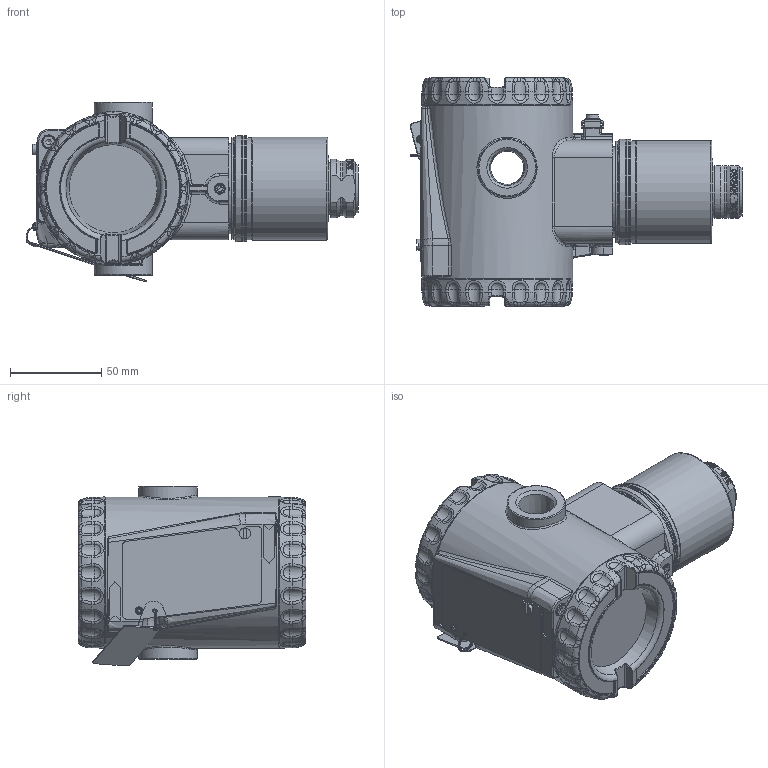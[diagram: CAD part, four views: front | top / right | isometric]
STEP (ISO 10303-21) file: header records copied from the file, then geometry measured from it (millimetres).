
FILE_DESCRIPTION(/* description */ (''),/* implementation_level */ '2;1');
FILE_NAME(/* name */ 'F:\Area\Desenvolvimento_2\Projects\Sensor\projetos\LD400-3d\dimensionais 3D clientes\LD400G\LD400G5 1-2 NPT femea.stp',/* time_stamp */ '2023-02-02T16:59:37-03:00',/* author */ ('inventor02'),/* organization */ (''),/* preprocessor_version */ 'ST-DEVELOPER v17',/* originating_system */ 'Autodesk Inventor 2019',/* authorisation */ '');
FILE_SCHEMA (('CONFIG_CONTROL_DESIGN'));
Products named in the file (26): LD400G5 1-2 NPT femea; SENSOR 29X FX5 1-2NPT; 101-B-5897-01 capa fx5; 101-C-3677-06 conexao ao processo 1-2NPT; 101-D-1309-04 pescoço LD29x usinado; Carcaça 400 com tampas e plaqueta sem letras; 101-D-0845-05 carcaça LD400 sem letras; 101-B-3614-03-tampa 400 sem letras; Tampa visor 400 montada sem letras; 101-B-3612-05 tampa visor 400 sem letras; 101-A-6107; oring 2034; 00034775-0; WHW_250; DIN 915 - M6 x 10; Chapa aterramento externo; 201-A-1771-02 inserto terra recartilhado; AS 1969 - ST4,2; ISO 1207 - M4 x 8; ANSI B18.3.1M - M4x0,7 x 8; Subconjunto plaqueta 400; plaqueta 400 em branco; Parafuso da Plaqueta; Rebite da Plaqueta; 096-A-0169-03; 101-A-0502-01
Assembly tree (26 placements, depth 4):
  LD400G5 1-2 NPT femea
    SENSOR 29X FX5 1-2NPT
      101-B-5897-01 capa fx5
      101-C-3677-06 conexao ao processo 1-2NPT
      101-D-1309-04 pescoço LD29x usinado
    Carcaça 400 com tampas e plaqueta sem letras
      101-D-0845-05 carcaça LD400 sem letras
      101-B-3614-03-tampa 400 sem letras
      Tampa visor 400 montada sem letras
        101-B-3612-05 tampa visor 400 sem letras
        101-A-6107
        oring 2034
        00034775-0
        WHW_250
      DIN 915 - M6 x 10
      Chapa aterramento externo
      201-A-1771-02 inserto terra recartilhado
      AS 1969 - ST4,2
      ISO 1207 - M4 x 8
      ANSI B18.3.1M - M4x0,7 x 8  x2
      Subconjunto plaqueta 400
        plaqueta 400 em branco
        Parafuso da Plaqueta
        Rebite da Plaqueta
        096-A-0169-03
        101-A-0502-01
Bounding box: 182.05 x 125 x 98.64 mm (x, y, z)
Volume: 436729.4 mm3; surface area: 184046.1 mm2
Topology: 22 solids, 22 shells, 1944 faces, 4817 edges, 2934 vertices
Faces by surface type: plane 543, bspline 513, cylinder 434, torus 271, cone 128, sphere 55
Full cylindrical faces by diameter (mm): 2 x2, 2.1 x1, 2.2 x1, 2.459 x3, 2.7 x1, 3 x1, 3.242 x3, 3.5 x4, 3.571 x1, 4 x4, 4.3 x2, 4.4 x1, 4.917 x1, 6 x2, 6.1 x2, 6.2 x1, 7 x2, 7.6 x2, 18 x1, 18.3 x2, 26.5 x1, 28.399 x1, 32 x2, 32.2 x1, 34.15 x1, 35.15 x1, 35.2 x1, 36 x1, 37 x1, 38 x2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
Entity records: 75298 total; most frequent: CARTESIAN_POINT 30487, ORIENTED_EDGE 9466, DIRECTION 8758, EDGE_CURVE 4733, AXIS2_PLACEMENT_3D 3624, VERTEX_POINT 2905, CIRCLE 2068, EDGE_LOOP 2026
